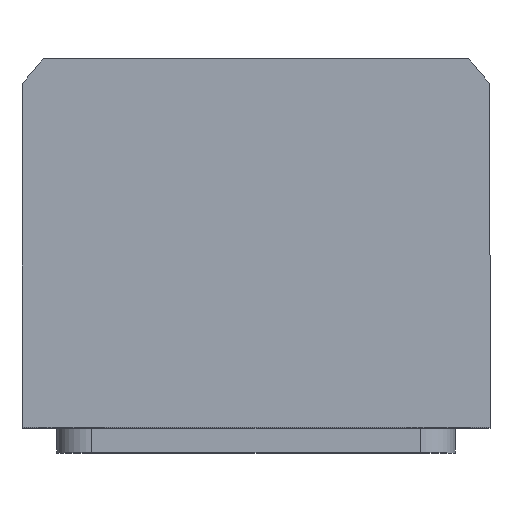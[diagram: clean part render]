
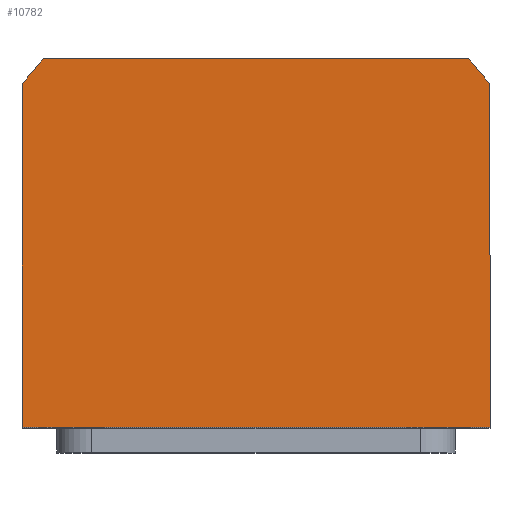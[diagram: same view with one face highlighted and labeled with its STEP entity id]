
A CAD part, top view. The second image highlights one B-rep face of the part: STEP entity #10782.
In plain terms, the highlighted planar face has unit normal (0, 0, 1).
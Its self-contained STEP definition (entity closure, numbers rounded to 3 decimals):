
#647 = CIRCLE ( 'NONE', #5581, 58.5 ) ;
#892 = DIRECTION ( 'NONE',  ( 1., 0., 0. ) ) ;
#1006 = EDGE_CURVE ( 'NONE', #6100, #8200, #1992, .T. ) ;
#1992 = LINE ( 'NONE', #11670, #9905 ) ;
#2150 = DIRECTION ( 'NONE',  ( 0., 0., 1. ) ) ;
#2407 = DIRECTION ( 'NONE',  ( -1., 0., 0. ) ) ;
#2518 = VECTOR ( 'NONE', #7773, 1000. ) ;
#2583 = DIRECTION ( 'NONE',  ( 1., 0., 0. ) ) ;
#2733 = AXIS2_PLACEMENT_3D ( 'NONE', #5550, #14863, #892 ) ;
#2937 = EDGE_CURVE ( 'NONE', #8200, #10291, #4726, .T. ) ;
#2941 = AXIS2_PLACEMENT_3D ( 'NONE', #7359, #3747, #2583 ) ;
#3030 = ORIENTED_EDGE ( 'NONE', *, *, #2937, .T. ) ;
#3228 = ORIENTED_EDGE ( 'NONE', *, *, #14112, .T. ) ;
#3747 = DIRECTION ( 'NONE',  ( 0., 0., 1. ) ) ;
#3776 = CARTESIAN_POINT ( 'NONE',  ( 47., -34., 65. ) ) ;
#3942 = EDGE_CURVE ( 'NONE', #12157, #6100, #9514, .T. ) ;
#4145 = FACE_OUTER_BOUND ( 'NONE', #11745, .T. ) ;
#4471 = CARTESIAN_POINT ( 'NONE',  ( -47., -34., 65. ) ) ;
#4472 = ORIENTED_EDGE ( 'NONE', *, *, #1006, .T. ) ;
#4497 = LINE ( 'NONE', #13503, #10386 ) ;
#4726 = CIRCLE ( 'NONE', #2733, 58.5 ) ;
#5550 = CARTESIAN_POINT ( 'NONE',  ( 0., 0., 65. ) ) ;
#5581 = AXIS2_PLACEMENT_3D ( 'NONE', #10329, #2150, #7988 ) ;
#6028 = CARTESIAN_POINT ( 'NONE',  ( 47., 34.832, 65. ) ) ;
#6100 = VERTEX_POINT ( 'NONE', #3776 ) ;
#6175 = ORIENTED_EDGE ( 'NONE', *, *, #3942, .T. ) ;
#7359 = CARTESIAN_POINT ( 'NONE',  ( 0., 0., 65. ) ) ;
#7773 = DIRECTION ( 'NONE',  ( 1., 0., 0. ) ) ;
#7988 = DIRECTION ( 'NONE',  ( 1., 0., 0. ) ) ;
#8200 = VERTEX_POINT ( 'NONE', #6028 ) ;
#8888 = DIRECTION ( 'NONE',  ( 0., -1., 0. ) ) ;
#9183 = CARTESIAN_POINT ( 'NONE',  ( -42.688, 40., 65. ) ) ;
#9467 = VERTEX_POINT ( 'NONE', #9183 ) ;
#9514 = LINE ( 'NONE', #13716, #2518 ) ;
#9566 = ORIENTED_EDGE ( 'NONE', *, *, #9660, .T. ) ;
#9660 = EDGE_CURVE ( 'NONE', #10291, #9467, #10424, .T. ) ;
#9905 = VECTOR ( 'NONE', #13988, 1000. ) ;
#9916 = VERTEX_POINT ( 'NONE', #12292 ) ;
#10265 = ORIENTED_EDGE ( 'NONE', *, *, #11506, .T. ) ;
#10291 = VERTEX_POINT ( 'NONE', #12137 ) ;
#10329 = CARTESIAN_POINT ( 'NONE',  ( 0., 0., 65. ) ) ;
#10386 = VECTOR ( 'NONE', #8888, 1000. ) ;
#10424 = LINE ( 'NONE', #14018, #10979 ) ;
#10782 = ADVANCED_FACE ( 'NONE', ( #4145 ), #14357, .T. ) ;
#10979 = VECTOR ( 'NONE', #2407, 1000. ) ;
#11506 = EDGE_CURVE ( 'NONE', #9467, #9916, #647, .T. ) ;
#11670 = CARTESIAN_POINT ( 'NONE',  ( 47., 34.832, 65. ) ) ;
#11745 = EDGE_LOOP ( 'NONE', ( #6175, #4472, #3030, #9566, #10265, #3228 ) ) ;
#12137 = CARTESIAN_POINT ( 'NONE',  ( 42.688, 40., 65. ) ) ;
#12157 = VERTEX_POINT ( 'NONE', #4471 ) ;
#12292 = CARTESIAN_POINT ( 'NONE',  ( -47., 34.832, 65. ) ) ;
#13503 = CARTESIAN_POINT ( 'NONE',  ( -47., -34., 65. ) ) ;
#13716 = CARTESIAN_POINT ( 'NONE',  ( 47., -34., 65. ) ) ;
#13988 = DIRECTION ( 'NONE',  ( 0., 1., 0. ) ) ;
#14018 = CARTESIAN_POINT ( 'NONE',  ( -42.688, 40., 65. ) ) ;
#14112 = EDGE_CURVE ( 'NONE', #9916, #12157, #4497, .T. ) ;
#14357 = PLANE ( 'NONE',  #2941 ) ;
#14863 = DIRECTION ( 'NONE',  ( 0., 0., 1. ) ) ;
